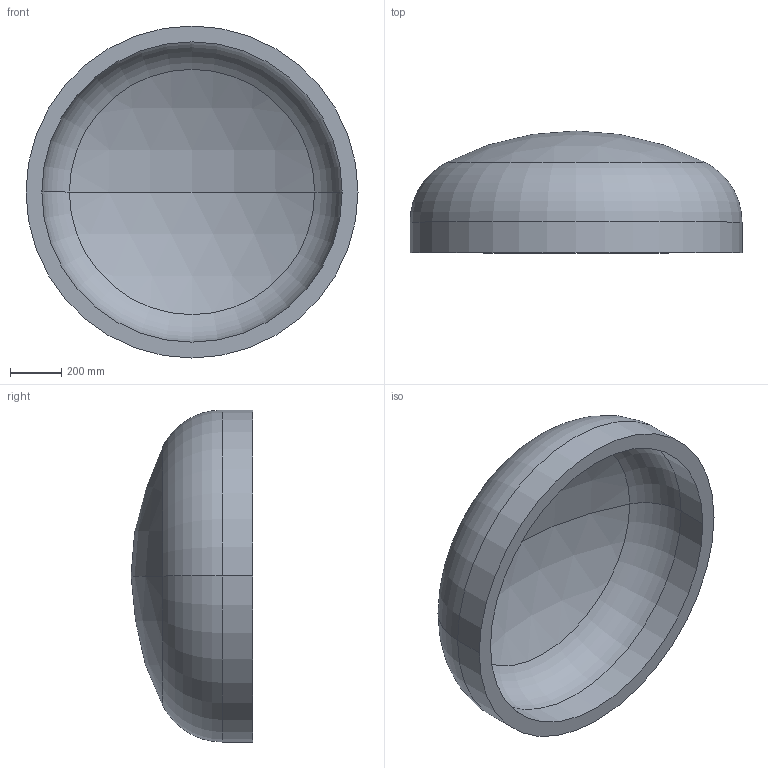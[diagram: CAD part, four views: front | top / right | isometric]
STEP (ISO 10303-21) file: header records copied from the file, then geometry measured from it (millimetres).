
FILE_DESCRIPTION (( 'STEP AP203' ), '1' );
FILE_NAME ('DIN 28013 Korbbogenform_-_Boden DIN 28013 - 1300 x 120 - I - s=62.step', '2016-07-01T09:56:24', ( '' ), ( '' ), 'SwSTEP 2.0', 'SolidWorks 2013', '' );
FILE_SCHEMA (( 'CONFIG_CONTROL_DESIGN' ));
Length unit declared in the file: millimetre
Products named in the file (1): DIN 28013 Korbbogenform_-_Boden DIN 28013 - 1300 x 120 - I - s=62
Bounding box: 1300 x 476.98 x 1300 mm (x, y, z)
Volume: 136102560.7 mm3; surface area: 4639591 mm2
Topology: 1 solids, 1 shells, 13 faces, 24 edges, 14 vertices
Faces by surface type: torus 4, cylinder 4, sphere 4, plane 1
Entity records: 407 total; most frequent: DIRECTION 72, CARTESIAN_POINT 52, ORIENTED_EDGE 48, AXIS2_PLACEMENT_3D 34, EDGE_CURVE 24, CIRCLE 20, EDGE_LOOP 14, VERTEX_POINT 14
